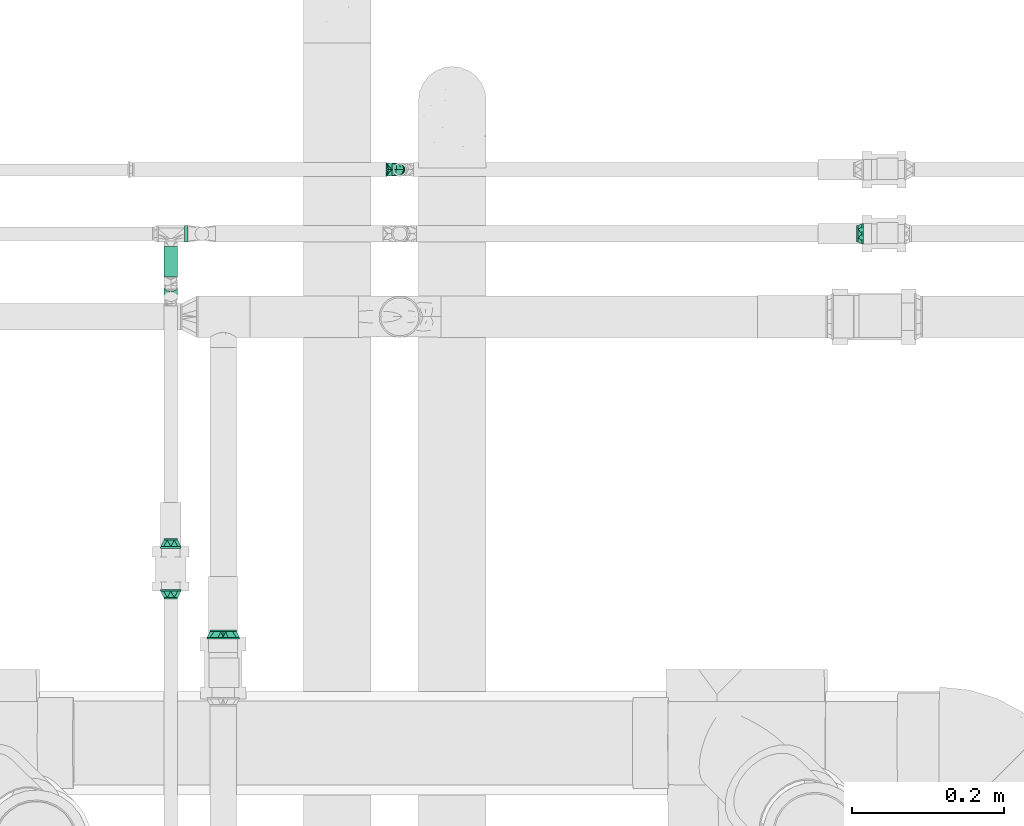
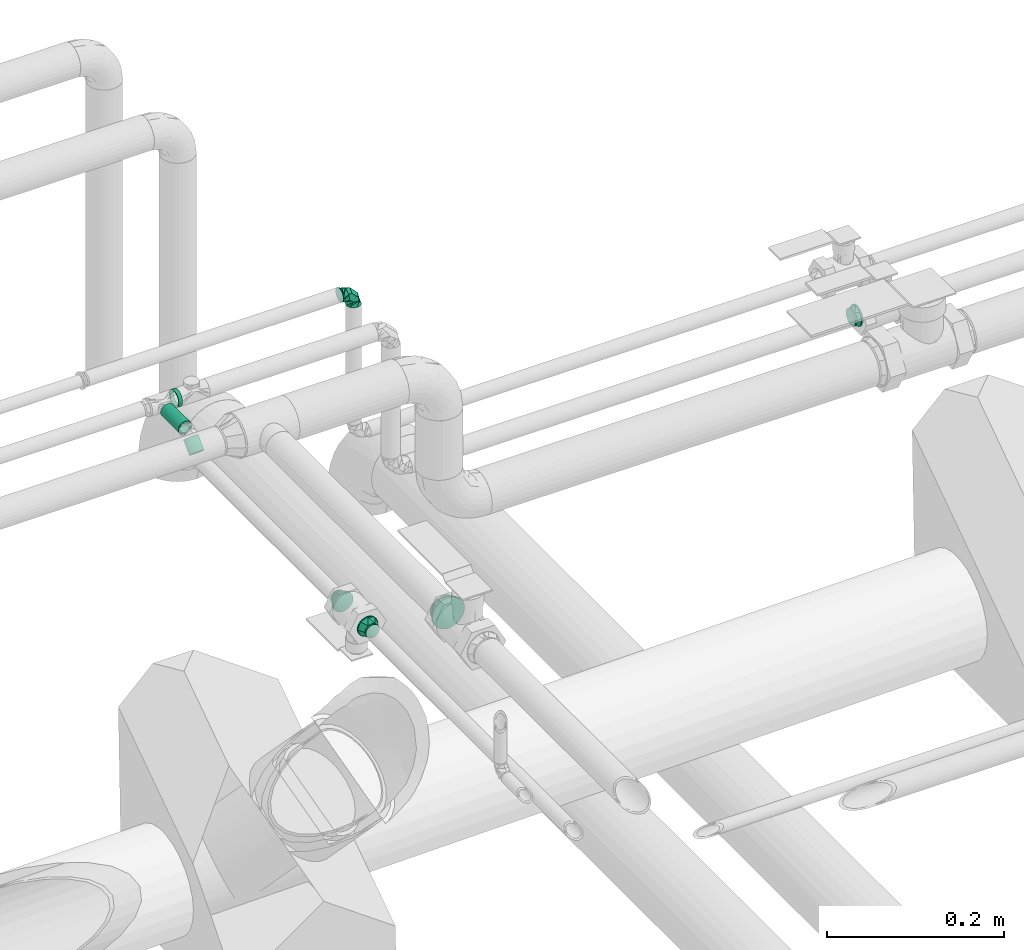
# One storey, part 94 of 156: 5 flow fittings, 3 flow segments.
"""IFC2X3 building model written with IfcOpenShell, lengths in millimetres."""

from ifc_helpers import new_model, entity, si_unit, converted_unit, derived_unit, direction, frame, origin_with_axes, origin_2d_with_axis, place, context, subcontext, project, spatial, hollow_circle, extrude, open_shell, surface_model, source, transform, mapped, type_object, element, save


model = new_model("IFC2X3")

# Units and contexts
model_context = context("Model", 3, precision=0.01, world=frame((0.0, 4.29681676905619e-09, 0.0)), true_north=direction((4.01073788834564e-13, 1.0)))
plan_context = context("Plan", 3, precision=0.01, world=frame((0.0, 4.29681676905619e-09, 0.0)), true_north=direction((4.01073788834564e-13, 1.0)))
body_context = subcontext(model_context, "Body", "Model", "MODEL_VIEW")
ifc_project = project(units=[converted_unit("PLANEANGLEUNIT", "DEGREE", entity("IfcPositiveLengthMeasure", 0.0174532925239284), si_unit("PLANEANGLEUNIT", "RADIAN"), dimensions=[0, 0, 0, 0, 0, 0, 0]), si_unit("AREAUNIT", "SQUARE_METRE"), si_unit("LENGTHUNIT", "METRE", prefix="MILLI"), si_unit("MASSUNIT", "GRAM", prefix="KILO"), si_unit("POWERUNIT", "WATT"), si_unit("PRESSUREUNIT", "PASCAL", prefix="KILO"), si_unit("FORCEUNIT", "NEWTON", prefix="KILO"), si_unit("ELECTRICVOLTAGEUNIT", "VOLT"), si_unit("ELECTRICCURRENTUNIT", "AMPERE"), si_unit("THERMODYNAMICTEMPERATUREUNIT", "DEGREE_CELSIUS"), si_unit("TIMEUNIT", "SECOND"), si_unit("VOLUMEUNIT", "CUBIC_METRE"), derived_unit("LINEARVELOCITYUNIT", [(si_unit("LENGTHUNIT", "METRE"), 1), (si_unit("TIMEUNIT", "SECOND"), -1)]), derived_unit("VOLUMETRICFLOWRATEUNIT", [(si_unit("VOLUMEUNIT", "CUBIC_METRE"), 1), (si_unit("TIMEUNIT", "SECOND"), -1)]), derived_unit("THERMALTRANSMITTANCEUNIT", [(si_unit("POWERUNIT", "WATT"), 1), (si_unit("THERMODYNAMICTEMPERATUREUNIT", "KELVIN"), -1), (si_unit("AREAUNIT", "SQUARE_METRE"), -1)]), derived_unit("SOUNDPRESSUREUNIT", [(si_unit("PRESSUREUNIT", "PASCAL"), 1)])], contexts=[model_context, plan_context])

# Site, building, storey
site_placement = place(None, frame((0.0, -4.29681676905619e-09, 0.0), z_axis=(0.0, 0.0, 1.0), x_axis=(1.0, 0.0, 0.0)))
site = spatial("IfcSite", under=ifc_project, at=site_placement, CompositionType="ELEMENT")
building_placement = place(site_placement, frame((0.0, 4.29681676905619e-09, 0.0), z_axis=(0.0, 0.0, 1.0), x_axis=(1.0, 0.0, 0.0)))
building = spatial("IfcBuilding", under=site, at=building_placement, Name="mc-building", CompositionType="ELEMENT")
storey_placement = place(building_placement, frame((0.0, 0.0, 205200.0), z_axis=(0.0, 0.0, 1.0), x_axis=(1.0, 0.0, 0.0)))
storey = spatial("IfcBuildingStorey", under=building, at=storey_placement, Name="Nivå D + 1,2 m", CompositionType="ELEMENT", Elevation=205200.0)

# Flow fittings
pipe_fitting_type_1 = type_object("IfcPipeFittingType", Name="magi_pipe_elbow_short_001", PredefinedType="BEND")
shared_shape_1 = source(origin_with_axes(), body_context, "Body", "SurfaceModel", [
    surface_model("IfcShellBasedSurfaceModel", [(-18.0, 4.5, -7.79423), (-18.0, 2.32937, -8.69333), (-18.0, 0.0, -9.0), (-18.0, -6.36396, -6.36396), (-18.0, 8.69333, -2.32937), (-18.0, 7.79423, -4.5), (-18.0, 6.36396, -6.36396), (-18.0, -4.5, -7.79423), (-18.0, -2.32937, -8.69333), (-18.0, -7.79423, -4.5), (-18.0, -8.69333, -2.32937), (-18.0, -9.0, 0.0), (-18.0, 8.69333, 2.32937), (-18.0, -8.69333, 2.32937), (-18.0, 7.79423, 4.5), (-18.0, 6.36396, 6.36396), (-18.0, 2.32937, 8.69333), (-18.0, 4.5, 7.79423), (-18.0, -7.79423, 4.5), (-18.0, -6.36396, 6.36396), (-18.0, -4.5, 7.79423), (-18.0, -2.32937, 8.69333), (-18.0, 0.0, 9.0), (-18.0, 9.0, 0.0), (0.0, 18.0, -9.0), (-2.32937, 18.0, -8.69333), (-4.5, 18.0, -7.79423), (6.36396, 18.0, -6.36396), (-7.79423, 18.0, -4.5), (-8.69333, 18.0, -2.32937), (-6.36396, 18.0, -6.36396), (8.69333, 18.0, 2.32937), (9.0, 18.0, 0.0), (2.32937, 18.0, -8.69333), (4.5, 18.0, -7.79423), (8.69333, 18.0, -2.32937), (7.79423, 18.0, -4.5), (-8.69333, 18.0, 2.32937), (-6.36396, 18.0, 6.36396), (-7.79423, 18.0, 4.5), (-4.5, 18.0, 7.79423), (-2.32937, 18.0, 8.69333), (7.79423, 18.0, 4.5), (6.36396, 18.0, 6.36396), (2.32937, 18.0, 8.69333), (4.5, 18.0, 7.79423), (0.0, 18.0, 9.0), (-9.0, 18.0, 0.0), (-16.09014, -8.48825, 0.0), (-10.51068, -2.97249, 7.92278), (-10.36056, -6.95302, 0.0), (-4.5, -5.38269, 0.0), (0.44134, -0.44134, 0.0), (2.91201, 2.02933, 0.0), (-2.70211, 1.18586, 7.65564), (-2.02933, -2.91201, 0.0), (-14.18028, -7.97651, 0.0), (-7.11648, 7.11648, 8.61373), (-4.93977, 9.63211, 8.64898), (2.97249, 10.51068, 7.92278), (2.01286, 5.84889, 7.1903), (5.38269, 4.5, 0.0), (-5.73616, -2.07922, 7.10204), (8.48825, 16.09014, 0.0), (7.97651, 14.18028, 0.0), (-9.63211, 4.93977, 8.64898), (-10.31802, 14.81802, 0.0), (-14.81802, 10.31802, 0.0), (-11.63604, 11.63604, 0.0), (6.95302, 10.36056, 0.0), (-10.51068, -2.97249, -7.92278), (-4.93977, 9.63211, -8.64898), (0.8585, 4.1248, -7.1903), (-2.68792, 2.14037, -8.03971), (2.97249, 10.51068, -7.92278), (-13.67048, 7.29638, -6.27272), (-8.50355, 2.18787, -8.98901), (-9.83427, 8.11209, -7.36254)], [open_shell([[[0, 1, 2]], [[0, 2, 3]], [[0, 4, 5]], [[6, 0, 5]], [[4, 0, 3]], [[7, 3, 8]], [[3, 2, 8]], [[9, 10, 3]], [[11, 3, 10]], [[3, 11, 4]], [[11, 12, 4]], [[12, 11, 13]], [[14, 12, 15]], [[16, 17, 15]], [[13, 15, 12]], [[15, 18, 16]], [[18, 19, 16]], [[15, 13, 18]], [[20, 21, 19]], [[22, 19, 21]], [[16, 19, 22]], [[23, 4, 12]], [[24, 25, 26]], [[27, 24, 26]], [[28, 29, 26]], [[28, 26, 30]], [[31, 32, 26]], [[33, 27, 34]], [[33, 24, 27]], [[27, 35, 36]], [[35, 27, 32]], [[26, 32, 27]], [[26, 29, 37]], [[31, 26, 37]], [[38, 37, 39]], [[38, 40, 41]], [[37, 38, 31]], [[41, 42, 38]], [[41, 43, 42]], [[42, 31, 38]], [[43, 44, 45]], [[44, 43, 46]], [[46, 43, 41]], [[37, 29, 47]], [[13, 48, 18]], [[49, 50, 51]], [[52, 53, 54]], [[54, 55, 52]], [[20, 19, 56]], [[18, 56, 19]], [[57, 54, 58]], [[20, 50, 21]], [[22, 21, 50]], [[59, 60, 61]], [[59, 58, 60]], [[55, 54, 62]], [[22, 50, 49]], [[22, 49, 16]], [[62, 49, 51]], [[62, 51, 55]], [[42, 63, 31]], [[49, 17, 16]], [[64, 63, 42]], [[12, 65, 23]], [[14, 15, 49]], [[54, 65, 62]], [[17, 49, 15]], [[57, 58, 66]], [[67, 57, 68]], [[53, 60, 54]], [[44, 46, 69]], [[69, 45, 44]], [[38, 59, 40]], [[41, 59, 46]], [[43, 45, 64]], [[54, 60, 58]], [[64, 45, 69]], [[61, 60, 53]], [[31, 63, 32]], [[59, 61, 69]], [[58, 47, 66]], [[20, 56, 50]], [[54, 57, 65]], [[49, 65, 14]], [[37, 47, 58]], [[64, 42, 43]], [[39, 37, 58]], [[14, 65, 12]], [[38, 39, 59]], [[13, 11, 48]], [[39, 58, 59]], [[48, 56, 18]], [[40, 59, 41]], [[59, 69, 46]], [[49, 62, 65]], [[57, 67, 65]], [[66, 68, 57]], [[67, 23, 65]], [[70, 50, 2]], [[71, 72, 73]], [[74, 71, 28]], [[70, 1, 0]], [[70, 51, 50]], [[35, 32, 63]], [[75, 6, 5]], [[75, 4, 23]], [[5, 4, 75]], [[51, 76, 55]], [[75, 23, 67]], [[70, 6, 75]], [[48, 11, 10]], [[7, 56, 3]], [[2, 50, 8]], [[51, 70, 76]], [[56, 7, 50]], [[7, 8, 50]], [[70, 2, 1]], [[66, 47, 71]], [[52, 72, 53]], [[6, 70, 0]], [[70, 75, 76]], [[73, 52, 55]], [[71, 68, 66]], [[61, 53, 72]], [[34, 64, 69]], [[29, 71, 47]], [[30, 74, 28]], [[56, 9, 3]], [[26, 25, 74]], [[63, 64, 36]], [[56, 48, 9]], [[26, 74, 30]], [[9, 48, 10]], [[24, 74, 25]], [[33, 69, 24]], [[28, 71, 29]], [[27, 64, 34]], [[69, 33, 34]], [[68, 71, 77]], [[74, 24, 69]], [[36, 35, 63]], [[61, 72, 74]], [[61, 74, 69]], [[67, 77, 75]], [[74, 72, 71]], [[36, 64, 27]], [[76, 77, 73]], [[75, 77, 76]], [[77, 71, 73]], [[55, 76, 73]], [[72, 52, 73]], [[77, 67, 68]]])]),
])
flow_fitting_1_placement = place(storey_placement, frame((326966.13637, 463477.7375, 4308.0), z_axis=(0.0, -1.0, 0.0), x_axis=(0.0, 0.0, 1.0)))
element("IfcFlowFitting", 1, at=flow_fitting_1_placement, inside=storey, type_object=pipe_fitting_type_1, Name="magi_pipe_elbow_short_001", context=body_context, shape_type="MappedRepresentation", body=[
    mapped(shared_shape_1, transform((0.0, 0.0, 0.0), scale=1.0)),
])
pipe_fitting_type_2 = type_object("IfcPipeFittingType", Name="magi_pipe_fe_reducer_centric_short_001", PredefinedType="TRANSITION")
shared_shape_2 = source(origin_with_axes(), body_context, "Body", "SurfaceModel", [
    surface_model("IfcShellBasedSurfaceModel", [(-2.0, -10.6, -18.35974), (-2.0, 0.0, -21.2), (-2.0, -5.48696, -20.47763), (0.0, 17.15116, 12.46105), (0.0, 6.55116, -20.1624), (0.0, -21.2, 0.0), (0.0, -6.55116, -20.1624), (0.0, -17.15116, -12.46105), (-2.0, 0.0, 21.2), (-2.0, 5.48696, 20.47763), (-2.0, 10.6, 18.35974), (-2.0, 14.99066, 14.99066), (-2.0, 18.35974, 10.6), (-2.0, 20.47763, 5.48696), (-2.0, -5.48696, 20.47763), (-2.0, -14.99066, 14.99066), (-2.0, -10.6, 18.35974), (-2.0, -18.35974, 10.6), (-2.0, -21.2, 0.0), (-2.0, -20.47763, 5.48696), (-2.0, 14.99066, -14.99066), (-2.0, 20.47763, -5.48696), (-2.0, 18.35974, -10.6), (-2.0, 10.6, -18.35974), (-2.0, 21.2, 0.0), (0.0, 10.6, -18.35974), (0.0, 0.0, -21.2), (0.0, 5.48696, -20.47763), (0.0, 20.47763, -5.48696), (0.0, 14.99066, -14.99066), (0.0, 18.35974, -10.6), (0.0, -10.6, -18.35974), (0.0, -5.48696, -20.47763), (0.0, -18.35974, -10.6), (0.0, -20.47763, -5.48696), (0.0, 20.47763, 5.48696), (0.0, 18.35974, 10.6), (0.0, 14.99066, 14.99066), (0.0, 10.6, 18.35974), (0.0, 5.48696, 20.47763), (0.0, 0.0, 21.2), (0.0, -18.35974, 10.6), (0.0, -20.47763, 5.48696), (0.0, -14.99066, 14.99066), (0.0, -5.48696, 20.47763), (0.0, -10.6, 18.35974), (-2.0, -20.47763, -5.48696), (-2.0, -18.35974, -10.6), (-2.0, -14.99066, -14.99066), (0.0, -14.99066, -14.99066), (-2.0, 5.48696, -20.47763), (0.0, 21.2, 0.0), (0.0, 6.55116, 20.1624), (0.0, -17.15116, 12.46105), (0.0, -6.55116, 20.1624), (0.0, 17.15116, -12.46105), (9.4, 4.52933, -16.9037), (9.4, 8.75, -15.15544), (9.4, 12.37437, -12.37437), (9.4, 16.9037, -4.52933), (9.4, -8.75, -15.15544), (9.4, 15.15544, -8.75), (9.4, -16.9037, 4.52933), (9.4, -15.15544, -8.75), (9.4, 0.0, -17.5), (9.4, -4.52933, -16.9037), (9.4, -12.37437, -12.37437), (9.4, -17.5, 0.0), (9.4, -16.9037, -4.52933), (9.4, 0.0, 17.5), (9.4, 17.5, 0.0), (9.4, 16.9037, 4.52933), (9.4, 15.15544, 8.75), (9.4, 12.37437, 12.37437), (9.4, 4.52933, 16.9037), (9.4, 8.75, 15.15544), (9.4, -12.37437, 12.37437), (9.4, -15.15544, 8.75), (9.4, -8.75, 15.15544), (9.4, -4.52933, 16.9037), (7.4, 0.0, 17.5), (7.4, 4.52933, 16.9037), (7.4, 8.75, 15.15544), (7.4, -15.15544, -8.75), (7.4, 12.37437, 12.37437), (7.4, 15.15544, 8.75), (7.4, 16.9037, 4.52933), (7.4, -16.9037, 4.52933), (7.4, -8.75, 15.15544), (7.4, -12.37437, 12.37437), (7.4, -4.52933, 16.9037), (7.4, -15.15544, 8.75), (7.4, -17.5, 0.0), (7.4, 16.9037, -4.52933), (7.4, 12.37437, -12.37437), (7.4, 15.15544, -8.75), (7.4, 8.75, -15.15544), (7.4, 4.52933, -16.9037), (7.4, 0.0, -17.5), (7.4, -8.75, -15.15544), (7.4, -12.37437, -12.37437), (7.4, -16.9037, -4.52933), (7.4, -4.52933, -16.9037), (7.4, 17.5, 0.0), (7.4, -13.65578, -9.28078), (0.0, 11.85116, -16.31172), (0.0, 14.50116, -14.38638), (7.4, -14.93718, -6.18718), (0.0, -19.17558, -6.23052), (0.0, -18.16337, -9.34579), (7.4, 6.18718, -14.93718), (7.4, 14.93718, -6.18718), (0.0, 19.17558, -6.23052), (0.0, 0.0, -20.1624), (7.4, 3.09359, -16.21859), (7.4, 13.65578, -9.28078), (7.4, -3.09359, -16.21859), (7.4, 16.21859, -3.09359), (7.4, -16.21859, -3.09359), (0.0, -11.85116, -16.31172), (7.4, -6.18718, -14.93718), (7.4, -9.28078, -13.65578), (7.4, 9.28078, -13.65578), (7.4, 13.65578, 9.28078), (0.0, -11.85116, 16.31172), (0.0, -14.50116, 14.38638), (7.4, 14.93718, 6.18718), (0.0, 19.17558, 6.23052), (0.0, 18.16337, 9.34579), (7.4, -6.18718, 14.93718), (7.4, -14.93718, 6.18718), (0.0, -19.17558, 6.23052), (0.0, 0.0, 20.1624), (7.4, -3.09359, 16.21859), (7.4, -13.65578, 9.28078), (7.4, 3.09359, 16.21859), (7.4, -16.21859, 3.09359), (7.4, 16.21859, 3.09359), (0.0, 11.85116, 16.31172), (7.4, 6.18718, 14.93718), (7.4, 9.28078, 13.65578), (7.4, -9.28078, 13.65578)], [open_shell([[[0, 1, 2]], [[3, 4, 5]], [[5, 4, 6]], [[5, 6, 7]], [[8, 9, 10]], [[11, 12, 13]], [[14, 15, 16]], [[17, 18, 19]], [[20, 21, 22]], [[23, 21, 20]], [[21, 13, 24]], [[25, 26, 27]], [[28, 25, 29]], [[28, 29, 30]], [[26, 31, 32]], [[26, 25, 31]], [[33, 5, 34]], [[35, 36, 37]], [[38, 39, 40]], [[5, 41, 42]], [[43, 44, 45]], [[40, 44, 43]], [[46, 34, 18]], [[47, 33, 46]], [[31, 48, 0]], [[47, 48, 49]], [[32, 0, 2]], [[46, 33, 34]], [[34, 5, 18]], [[32, 31, 0]], [[49, 48, 31]], [[49, 33, 47]], [[26, 32, 2]], [[2, 1, 26]], [[50, 27, 1]], [[23, 25, 50]], [[30, 20, 22]], [[23, 20, 29]], [[28, 22, 21]], [[23, 29, 25]], [[25, 27, 50]], [[51, 28, 21]], [[30, 22, 28]], [[30, 29, 20]], [[24, 51, 21]], [[1, 27, 26]], [[13, 35, 24]], [[12, 36, 13]], [[38, 11, 10]], [[12, 11, 37]], [[39, 10, 9]], [[13, 36, 35]], [[35, 51, 24]], [[39, 38, 10]], [[37, 11, 38]], [[37, 36, 12]], [[40, 39, 9]], [[9, 8, 40]], [[14, 44, 8]], [[16, 45, 14]], [[41, 15, 17]], [[16, 15, 43]], [[42, 17, 19]], [[16, 43, 45]], [[45, 44, 14]], [[5, 42, 19]], [[41, 17, 42]], [[41, 43, 15]], [[18, 5, 19]], [[8, 44, 40]], [[52, 53, 54]], [[4, 3, 55]], [[55, 3, 51]], [[56, 57, 58]], [[56, 58, 59]], [[56, 59, 60]], [[59, 58, 61]], [[62, 63, 59]], [[64, 60, 65]], [[64, 56, 60]], [[60, 63, 66]], [[59, 63, 60]], [[63, 67, 68]], [[69, 59, 70]], [[71, 72, 73]], [[71, 73, 69]], [[74, 69, 73]], [[74, 73, 75]], [[69, 62, 59]], [[62, 76, 77]], [[67, 63, 62]], [[62, 78, 76]], [[78, 62, 79]], [[69, 79, 62]], [[70, 71, 69]], [[80, 81, 82]], [[83, 80, 82]], [[84, 85, 86]], [[84, 86, 82]], [[87, 80, 83]], [[88, 87, 89]], [[87, 88, 90]], [[89, 87, 91]], [[90, 80, 87]], [[87, 83, 92]], [[86, 83, 82]], [[86, 93, 83]], [[94, 93, 95]], [[94, 96, 97]], [[94, 97, 93]], [[98, 93, 97]], [[83, 99, 100]], [[101, 92, 83]], [[99, 98, 102]], [[99, 83, 93]], [[98, 99, 93]], [[93, 86, 103]], [[101, 68, 92]], [[83, 63, 101]], [[60, 100, 99]], [[83, 100, 66]], [[65, 99, 102]], [[101, 63, 68]], [[68, 67, 92]], [[65, 60, 99]], [[66, 100, 60]], [[66, 63, 83]], [[64, 65, 102]], [[102, 98, 64]], [[97, 56, 98]], [[96, 57, 97]], [[61, 94, 95]], [[96, 94, 58]], [[59, 95, 93]], [[96, 58, 57]], [[57, 56, 97]], [[70, 59, 93]], [[61, 95, 59]], [[61, 58, 94]], [[103, 70, 93]], [[98, 56, 64]], [[86, 71, 103]], [[85, 72, 86]], [[75, 84, 82]], [[85, 84, 73]], [[74, 82, 81]], [[86, 72, 71]], [[71, 70, 103]], [[74, 75, 82]], [[73, 84, 75]], [[73, 72, 85]], [[69, 74, 81]], [[81, 80, 69]], [[90, 79, 80]], [[88, 78, 90]], [[77, 89, 91]], [[88, 89, 76]], [[62, 91, 87]], [[88, 76, 78]], [[78, 79, 90]], [[67, 62, 87]], [[77, 91, 62]], [[77, 76, 89]], [[92, 67, 87]], [[80, 79, 69]], [[14, 8, 10]], [[10, 11, 14]], [[11, 21, 15]], [[14, 11, 15]], [[18, 17, 15]], [[15, 23, 18]], [[21, 11, 13]], [[15, 21, 23]], [[18, 23, 46]], [[46, 23, 50]], [[47, 0, 48]], [[1, 47, 46]], [[1, 0, 47]], [[46, 50, 1]], [[31, 25, 28]], [[31, 28, 37]], [[31, 33, 49]], [[31, 5, 33]], [[28, 51, 35]], [[31, 37, 5]], [[5, 37, 38]], [[43, 38, 40]], [[41, 5, 43]], [[43, 5, 38]], [[37, 28, 35]], [[80, 89, 84]], [[103, 84, 89]], [[89, 100, 103]], [[100, 98, 103]], [[94, 103, 98]], [[89, 92, 100]], [[52, 3, 5]], [[53, 52, 5]], [[7, 100, 104]], [[94, 105, 106]], [[107, 108, 109]], [[105, 110, 4]], [[94, 106, 55]], [[111, 55, 112]], [[113, 114, 98]], [[55, 111, 115]], [[113, 116, 6]], [[51, 117, 112]], [[5, 118, 92]], [[100, 7, 119]], [[119, 120, 121]], [[5, 108, 118]], [[116, 113, 98]], [[4, 110, 114]], [[116, 120, 6]], [[4, 114, 113]], [[122, 110, 105]], [[117, 51, 103]], [[107, 118, 108]], [[7, 104, 109]], [[104, 107, 109]], [[94, 55, 115]], [[120, 119, 6]], [[121, 100, 119]], [[117, 111, 112]], [[105, 94, 122]], [[3, 84, 123]], [[89, 124, 125]], [[126, 127, 128]], [[124, 129, 54]], [[89, 125, 53]], [[130, 53, 131]], [[132, 133, 80]], [[53, 130, 134]], [[132, 135, 52]], [[5, 136, 131]], [[51, 137, 103]], [[84, 3, 138]], [[138, 139, 140]], [[51, 127, 137]], [[135, 132, 80]], [[54, 129, 133]], [[135, 139, 52]], [[54, 133, 132]], [[141, 129, 124]], [[136, 5, 92]], [[126, 137, 127]], [[3, 123, 128]], [[123, 126, 128]], [[89, 53, 134]], [[139, 138, 52]], [[140, 84, 138]], [[136, 130, 131]], [[124, 89, 141]]])]),
])
flow_fitting_2_placement = place(storey_placement, frame((326734.3046, 462863.4875, 4318.0), z_axis=(0.0, 0.0, 1.0), x_axis=(0.0, 1.0, 0.0)))
element("IfcFlowFitting", 2, at=flow_fitting_2_placement, inside=storey, type_object=pipe_fitting_type_2, Name="magi_pipe_fe_reducer_centric_short_001", context=body_context, shape_type="MappedRepresentation", body=[
    mapped(shared_shape_2, transform((0.0, 0.0, 0.0), scale=1.0)),
])
shared_shape_3 = source(origin_with_axes(), body_context, "Body", "SurfaceModel", [
    surface_model("IfcShellBasedSurfaceModel", [(-2.0, 9.47523, 9.47523), (-2.0, 11.60474, 6.7), (-2.0, 12.94341, 3.46818), (-2.0, -3.46818, 12.94341), (-2.0, -9.47523, 9.47523), (-2.0, -6.7, 11.60474), (-2.0, -12.94341, 3.46818), (-2.0, -11.60474, 6.7), (-2.0, -12.94341, -3.46818), (-2.0, -9.47523, -9.47523), (-2.0, -11.60474, -6.7), (0.0, 11.60474, -6.7), (0.0, 6.7, -11.60474), (0.0, 9.47523, -9.47523), (0.0, -9.47523, -9.47523), (0.0, -12.94341, -3.46818), (0.0, -11.60474, -6.7), (0.0, 12.94341, 3.46818), (0.0, 11.60474, 6.7), (0.0, 9.47523, 9.47523), (0.0, 0.0, 13.4), (0.0, -9.47523, 9.47523), (0.0, -3.46818, 12.94341), (0.0, -6.7, 11.60474), (-2.0, -13.4, 0.0), (0.0, -6.7, -11.60474), (-2.0, -6.7, -11.60474), (0.0, -3.46818, -12.94341), (-2.0, -3.46818, -12.94341), (0.0, -13.4, 0.0), (0.0, 0.0, -13.4), (-2.0, 0.0, -13.4), (-2.0, 3.46818, -12.94341), (0.0, 3.46818, -12.94341), (-2.0, 6.7, -11.60474), (-2.0, 9.47523, -9.47523), (-2.0, 11.60474, -6.7), (0.0, 12.94341, -3.46818), (-2.0, 12.94341, -3.46818), (0.0, 13.4, 0.0), (-2.0, 13.4, 0.0), (0.0, 6.7, 11.60474), (-2.0, 6.7, 11.60474), (0.0, 3.46818, 12.94341), (-2.0, 3.46818, 12.94341), (-2.0, 0.0, 13.4), (0.0, -11.60474, 6.7), (0.0, -12.94341, 3.46818), (6.8, 2.84701, -10.62518), (6.8, 5.5, -9.52628), (6.8, 7.77817, -7.77817), (6.8, 9.52628, -5.5), (6.8, 10.62518, -2.84701), (6.8, -7.77817, -7.77817), (6.8, 2.84701, 10.62518), (6.8, -2.84701, -10.62518), (6.8, 0.0, -11.0), (6.8, -5.5, -9.52628), (6.8, -10.62518, -2.84701), (6.8, -9.52628, -5.5), (6.8, -11.0, 0.0), (6.8, 11.0, 0.0), (6.8, 10.62518, 2.84701), (6.8, 9.52628, 5.5), (6.8, 7.77817, 7.77817), (6.8, 0.0, 11.0), (6.8, 5.5, 9.52628), (6.8, -2.84701, 10.62518), (6.8, -10.62518, 2.84701), (6.8, -7.77817, 7.77817), (6.8, -9.52628, 5.5), (6.8, -5.5, 9.52628), (4.8, 2.84701, 10.62518), (4.8, -2.84701, 10.62518), (4.8, 0.0, 11.0), (4.8, 7.77817, 7.77817), (4.8, 5.5, 9.52628), (4.8, 9.52628, 5.5), (4.8, 10.62518, 2.84701), (4.8, -11.0, 0.0), (4.8, -7.77817, 7.77817), (4.8, -5.5, 9.52628), (4.8, -10.62518, 2.84701), (4.8, -9.52628, 5.5), (4.8, 10.62518, -2.84701), (4.8, 2.84701, -10.62518), (4.8, 7.77817, -7.77817), (4.8, 9.52628, -5.5), (4.8, 5.5, -9.52628), (4.8, -7.77817, -7.77817), (4.8, -10.62518, -2.84701), (4.8, -9.52628, -5.5), (4.8, -2.84701, -10.62518), (4.8, -5.5, -9.52628), (4.8, 0.0, -11.0), (4.8, 11.0, 0.0)], [open_shell([[[0, 1, 2]], [[3, 4, 5]], [[4, 6, 7]], [[8, 9, 10]], [[11, 12, 13]], [[14, 15, 16]], [[17, 18, 19]], [[17, 19, 20]], [[21, 22, 23]], [[8, 15, 24]], [[10, 16, 8]], [[25, 9, 26]], [[10, 9, 14]], [[27, 26, 28]], [[8, 16, 15]], [[15, 29, 24]], [[27, 25, 26]], [[14, 9, 25]], [[14, 16, 10]], [[30, 27, 28]], [[28, 31, 30]], [[32, 33, 31]], [[34, 12, 32]], [[11, 35, 36]], [[34, 35, 13]], [[37, 36, 38]], [[34, 13, 12]], [[12, 33, 32]], [[39, 37, 38]], [[11, 36, 37]], [[11, 13, 35]], [[40, 39, 38]], [[31, 33, 30]], [[2, 17, 40]], [[1, 18, 2]], [[41, 0, 42]], [[1, 0, 19]], [[43, 42, 44]], [[2, 18, 17]], [[17, 39, 40]], [[43, 41, 42]], [[19, 0, 41]], [[19, 18, 1]], [[20, 43, 44]], [[44, 45, 20]], [[3, 22, 45]], [[5, 23, 3]], [[46, 4, 7]], [[5, 4, 21]], [[47, 7, 6]], [[5, 21, 23]], [[23, 22, 3]], [[29, 47, 6]], [[46, 7, 47]], [[46, 21, 4]], [[24, 29, 6]], [[45, 22, 20]], [[0, 45, 44]], [[0, 44, 42]], [[0, 2, 45]], [[45, 2, 3]], [[4, 3, 9]], [[6, 4, 24]], [[4, 9, 24]], [[9, 3, 2]], [[2, 38, 9]], [[36, 9, 38]], [[36, 34, 9]], [[34, 36, 35]], [[34, 32, 28]], [[24, 9, 8]], [[9, 28, 26]], [[9, 34, 28]], [[31, 28, 32]], [[38, 2, 40]], [[12, 27, 33]], [[37, 14, 11]], [[11, 14, 12]], [[14, 37, 39]], [[27, 14, 25]], [[27, 30, 33]], [[27, 12, 14]], [[39, 15, 14]], [[39, 17, 15]], [[43, 20, 19]], [[43, 19, 41]], [[17, 20, 22]], [[29, 46, 47]], [[46, 29, 21]], [[29, 15, 21]], [[17, 22, 21]], [[21, 15, 17]], [[20, 19, 29]], [[29, 21, 20]], [[14, 29, 30]], [[19, 30, 29]], [[13, 30, 19]], [[19, 39, 13]], [[48, 49, 50]], [[48, 50, 51]], [[48, 52, 53]], [[52, 48, 51]], [[52, 54, 53]], [[48, 55, 56]], [[48, 57, 55]], [[53, 58, 59]], [[57, 48, 53]], [[53, 60, 58]], [[52, 61, 62]], [[62, 63, 64]], [[62, 64, 54]], [[65, 53, 54]], [[54, 64, 66]], [[67, 53, 65]], [[68, 69, 70]], [[69, 68, 60]], [[69, 67, 71]], [[60, 53, 69]], [[67, 69, 53]], [[54, 52, 62]], [[72, 73, 74]], [[75, 72, 76]], [[75, 77, 78]], [[75, 78, 72]], [[79, 72, 78]], [[73, 80, 81]], [[73, 72, 80]], [[80, 82, 83]], [[82, 80, 79]], [[72, 79, 80]], [[78, 84, 79]], [[79, 84, 85]], [[86, 84, 87]], [[86, 88, 85]], [[86, 85, 84]], [[85, 89, 79]], [[90, 89, 91]], [[79, 89, 90]], [[85, 92, 93]], [[93, 89, 85]], [[92, 85, 94]], [[84, 78, 95]], [[90, 58, 79]], [[91, 59, 90]], [[57, 89, 93]], [[91, 89, 53]], [[55, 93, 92]], [[90, 59, 58]], [[58, 60, 79]], [[55, 57, 93]], [[53, 89, 57]], [[53, 59, 91]], [[56, 55, 92]], [[92, 94, 56]], [[85, 48, 94]], [[88, 49, 85]], [[51, 86, 87]], [[88, 86, 50]], [[52, 87, 84]], [[88, 50, 49]], [[49, 48, 85]], [[61, 52, 84]], [[51, 87, 52]], [[51, 50, 86]], [[95, 61, 84]], [[94, 48, 56]], [[78, 62, 95]], [[77, 63, 78]], [[66, 75, 76]], [[77, 75, 64]], [[54, 76, 72]], [[78, 63, 62]], [[62, 61, 95]], [[54, 66, 76]], [[64, 75, 66]], [[64, 63, 77]], [[65, 54, 72]], [[72, 74, 65]], [[73, 67, 74]], [[81, 71, 73]], [[70, 80, 83]], [[81, 80, 69]], [[68, 83, 82]], [[81, 69, 71]], [[71, 67, 73]], [[60, 68, 82]], [[70, 83, 68]], [[70, 69, 80]], [[79, 60, 82]], [[74, 67, 65]], [[76, 81, 95]], [[95, 81, 93]], [[93, 88, 95]], [[93, 81, 79]], [[95, 88, 13]], [[13, 39, 95]], [[88, 30, 13]], [[93, 79, 14]], [[14, 30, 93]], [[29, 14, 79]], [[93, 30, 88]], [[79, 81, 21]], [[21, 29, 79]], [[81, 20, 21]], [[76, 95, 19]], [[19, 20, 76]], [[39, 19, 95]], [[76, 20, 81]]])]),
])
flow_fitting_3_placement = place(storey_placement, frame((327572.95, 463393.4875, 4112.0), z_axis=(0.0, 0.0, 1.0), x_axis=(-1.0, 0.0, 0.0)))
element("IfcFlowFitting", 3, at=flow_fitting_3_placement, inside=storey, type_object=pipe_fitting_type_2, Name="magi_pipe_fe_reducer_centric_short_001", context=body_context, shape_type="MappedRepresentation", body=[
    mapped(shared_shape_3, transform((0.0, 0.0, 0.0), scale=1.0)),
])
shared_shape_4 = source(origin_with_axes(), body_context, "Body", "SurfaceModel", [
    surface_model("IfcShellBasedSurfaceModel", [(-2.0, 9.47523, 9.47523), (-2.0, 11.60474, 6.7), (-2.0, 12.94341, 3.46818), (-2.0, -3.46818, 12.94341), (-2.0, -9.47523, 9.47523), (-2.0, -6.7, 11.60474), (-2.0, -12.94341, 3.46818), (-2.0, -11.60474, 6.7), (-2.0, -12.94341, -3.46818), (-2.0, -9.47523, -9.47523), (-2.0, -11.60474, -6.7), (0.0, 11.60474, -6.7), (0.0, 6.7, -11.60474), (0.0, 9.47523, -9.47523), (0.0, -9.47523, -9.47523), (0.0, -12.94341, -3.46818), (0.0, -11.60474, -6.7), (0.0, 12.94341, 3.46818), (0.0, 11.60474, 6.7), (0.0, 9.47523, 9.47523), (0.0, 0.0, 13.4), (0.0, -9.47523, 9.47523), (0.0, -3.46818, 12.94341), (0.0, -6.7, 11.60474), (-2.0, -13.4, 0.0), (0.0, -6.7, -11.60474), (-2.0, -6.7, -11.60474), (0.0, -3.46818, -12.94341), (-2.0, -3.46818, -12.94341), (0.0, -13.4, 0.0), (0.0, 0.0, -13.4), (-2.0, 0.0, -13.4), (-2.0, 3.46818, -12.94341), (0.0, 3.46818, -12.94341), (-2.0, 6.7, -11.60474), (-2.0, 9.47523, -9.47523), (-2.0, 11.60474, -6.7), (0.0, 12.94341, -3.46818), (-2.0, 12.94341, -3.46818), (0.0, 13.4, 0.0), (-2.0, 13.4, 0.0), (0.0, 6.7, 11.60474), (-2.0, 6.7, 11.60474), (0.0, 3.46818, 12.94341), (-2.0, 3.46818, 12.94341), (-2.0, 0.0, 13.4), (0.0, -11.60474, 6.7), (0.0, -12.94341, 3.46818), (10.8, 4.5, -7.79423), (10.8, -6.36396, -6.36396), (10.8, 2.32937, -8.69333), (10.8, 8.69333, -2.32937), (10.8, 6.36396, -6.36396), (10.8, 7.79423, -4.5), (10.8, 7.79423, 4.5), (10.8, -8.69333, -2.32937), (10.8, 0.0, -9.0), (10.8, -4.5, -7.79423), (10.8, -2.32937, -8.69333), (10.8, -7.79423, -4.5), (10.8, 9.0, 0.0), (10.8, 8.69333, 2.32937), (10.8, -9.0, 0.0), (10.8, 4.5, 7.79423), (10.8, 6.36396, 6.36396), (10.8, 2.32937, 8.69333), (10.8, 0.0, 9.0), (10.8, -2.32937, 8.69333), (10.8, -8.69333, 2.32937), (10.8, -6.36396, 6.36396), (10.8, -7.79423, 4.5), (10.8, -4.5, 7.79423), (8.8, 0.0, 9.0), (8.8, 2.32937, 8.69333), (8.8, 4.5, 7.79423), (8.8, 7.79423, 4.5), (8.8, -9.0, 0.0), (8.8, 8.69333, -2.32937), (8.8, 6.36396, 6.36396), (8.8, 9.0, 0.0), (8.8, -2.32937, 8.69333), (8.8, -6.36396, 6.36396), (8.8, -4.5, 7.79423), (8.8, -8.69333, 2.32937), (8.8, -7.79423, 4.5), (8.8, 8.69333, 2.32937), (8.8, 4.5, -7.79423), (8.8, 6.36396, -6.36396), (8.8, 7.79423, -4.5), (8.8, 2.32937, -8.69333), (8.8, -4.5, -7.79423), (8.8, -8.69333, -2.32937), (8.8, -6.36396, -6.36396), (8.8, -7.79423, -4.5), (8.8, 0.0, -9.0), (8.8, -2.32937, -8.69333)], [open_shell([[[0, 1, 2]], [[3, 4, 5]], [[4, 6, 7]], [[8, 9, 10]], [[11, 12, 13]], [[14, 15, 16]], [[17, 18, 19]], [[17, 19, 20]], [[21, 22, 23]], [[8, 15, 24]], [[10, 16, 8]], [[25, 9, 26]], [[10, 9, 14]], [[27, 26, 28]], [[8, 16, 15]], [[15, 29, 24]], [[27, 25, 26]], [[14, 9, 25]], [[14, 16, 10]], [[30, 27, 28]], [[28, 31, 30]], [[32, 33, 31]], [[34, 12, 32]], [[11, 35, 36]], [[34, 35, 13]], [[37, 36, 38]], [[34, 13, 12]], [[12, 33, 32]], [[39, 37, 38]], [[11, 36, 37]], [[11, 13, 35]], [[40, 39, 38]], [[31, 33, 30]], [[2, 17, 40]], [[1, 18, 2]], [[41, 0, 42]], [[1, 0, 19]], [[43, 42, 44]], [[2, 18, 17]], [[17, 39, 40]], [[43, 41, 42]], [[19, 0, 41]], [[19, 18, 1]], [[20, 43, 44]], [[44, 45, 20]], [[3, 22, 45]], [[5, 23, 3]], [[46, 4, 7]], [[5, 4, 21]], [[47, 7, 6]], [[5, 21, 23]], [[23, 22, 3]], [[29, 47, 6]], [[46, 7, 47]], [[46, 21, 4]], [[24, 29, 6]], [[45, 22, 20]], [[48, 49, 50]], [[51, 48, 52]], [[49, 48, 51]], [[51, 52, 53]], [[54, 55, 51]], [[56, 57, 58]], [[56, 50, 57]], [[49, 55, 59]], [[57, 50, 49]], [[51, 55, 49]], [[51, 60, 61]], [[62, 55, 54]], [[63, 54, 64]], [[63, 65, 66]], [[63, 66, 54]], [[67, 54, 66]], [[68, 69, 70]], [[69, 68, 62]], [[69, 67, 71]], [[69, 62, 54]], [[54, 67, 69]], [[54, 51, 61]], [[72, 73, 74]], [[72, 74, 75]], [[76, 72, 77]], [[75, 74, 78]], [[75, 79, 72]], [[80, 81, 82]], [[80, 72, 81]], [[81, 83, 84]], [[83, 81, 76]], [[72, 76, 81]], [[75, 85, 79]], [[77, 86, 76]], [[87, 77, 88]], [[89, 76, 86]], [[86, 77, 87]], [[89, 90, 76]], [[91, 92, 93]], [[76, 92, 91]], [[90, 94, 95]], [[92, 76, 90]], [[94, 90, 89]], [[77, 72, 79]], [[91, 55, 76]], [[93, 59, 91]], [[57, 92, 90]], [[93, 92, 49]], [[58, 90, 95]], [[91, 59, 55]], [[55, 62, 76]], [[58, 57, 90]], [[49, 92, 57]], [[49, 59, 93]], [[56, 58, 95]], [[95, 94, 56]], [[89, 50, 94]], [[86, 48, 89]], [[53, 87, 88]], [[86, 87, 52]], [[51, 88, 77]], [[86, 52, 48]], [[48, 50, 89]], [[60, 51, 77]], [[53, 88, 51]], [[53, 52, 87]], [[79, 60, 77]], [[94, 50, 56]], [[85, 61, 79]], [[75, 54, 85]], [[63, 78, 74]], [[75, 78, 64]], [[65, 74, 73]], [[85, 54, 61]], [[61, 60, 79]], [[65, 63, 74]], [[64, 78, 63]], [[64, 54, 75]], [[66, 65, 73]], [[73, 72, 66]], [[80, 67, 72]], [[82, 71, 80]], [[70, 81, 84]], [[82, 81, 69]], [[68, 84, 83]], [[82, 69, 71]], [[71, 67, 80]], [[62, 68, 83]], [[70, 84, 68]], [[70, 69, 81]], [[76, 62, 83]], [[72, 67, 66]], [[0, 45, 44]], [[0, 44, 42]], [[0, 2, 45]], [[45, 2, 3]], [[4, 3, 9]], [[6, 4, 24]], [[4, 9, 24]], [[9, 3, 2]], [[2, 38, 9]], [[36, 9, 38]], [[36, 34, 9]], [[34, 36, 35]], [[34, 32, 28]], [[24, 9, 8]], [[9, 28, 26]], [[9, 34, 28]], [[31, 28, 32]], [[38, 2, 40]], [[12, 27, 33]], [[37, 14, 11]], [[11, 14, 12]], [[14, 37, 39]], [[27, 14, 25]], [[27, 30, 33]], [[27, 12, 14]], [[39, 15, 14]], [[39, 17, 15]], [[43, 20, 19]], [[43, 19, 41]], [[17, 20, 22]], [[29, 46, 47]], [[46, 29, 21]], [[29, 15, 21]], [[17, 22, 21]], [[21, 15, 17]], [[74, 82, 79]], [[79, 82, 90]], [[90, 86, 79]], [[90, 82, 76]], [[20, 19, 29]], [[29, 21, 20]], [[19, 13, 29]], [[30, 29, 13]], [[14, 29, 30]], [[13, 19, 39]], [[79, 86, 13]], [[13, 39, 79]], [[86, 30, 13]], [[90, 76, 14]], [[90, 14, 30]], [[14, 76, 29]], [[90, 30, 86]], [[76, 82, 21]], [[21, 29, 76]], [[82, 20, 21]], [[74, 79, 19]], [[74, 19, 20]], [[19, 79, 39]], [[74, 20, 82]]])]),
])
for number, where, z_axis, x_axis, name in (
    (4, (326665.49724, 462924.5125, 4285.29988999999), (0.0, 0.0, 1.0), (0.0, -1.0, 0.0), "magi_pipe_fe_reducer_centric_short_001"),
    (5, (326665.49724, 462982.5125, 4285.29988999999), (0.0, 0.0, 1.0), (0.0, 1.0, 0.0), "magi_pipe_fe_reducer_centric_short_001"),
):
    element("IfcFlowFitting", number, at=place(storey_placement, frame(where, z_axis=z_axis, x_axis=x_axis)), inside=storey, type_object=pipe_fitting_type_2, Name=name, context=body_context, shape_type="MappedRepresentation", body=[
        mapped(shared_shape_4, transform((0.0, 0.0, 0.0), scale=1.0)),
    ])

# Flow segments
pipe_segment_type = type_object("IfcPipeSegmentType", Name="Kobberrør", PredefinedType="RIGIDSEGMENT")
shared_shape_5 = source(origin_with_axes(), body_context, "Body", "SweptSolid", [
    extrude(hollow_circle(Radius=11.0, WallThickness=2.0, at=origin_2d_with_axis()), frame((0.0, 0.0, 0.0), z_axis=(1.0, 0.0, 0.0), x_axis=(0.0, 1.0, 0.0)), (0.0, 0.0, 1.0), 4.9),
])
flow_segment_1_placement = place(storey_placement, frame((326683.49724, 463393.4875, 4309.0), z_axis=(0.0, 0.0, 1.0), x_axis=(1.0, 0.0, 0.0)))
element("IfcFlowSegment", 6, at=flow_segment_1_placement, inside=storey, type_object=pipe_segment_type, Name="Kobberrør", context=body_context, shape_type="MappedRepresentation", body=[
    mapped(shared_shape_5, transform((0.0, 0.0, 0.0), scale=1.0)),
])
shared_shape_6 = source(origin_with_axes(), body_context, "Body", "SweptSolid", [
    extrude(hollow_circle(Radius=9.0, WallThickness=2.0, at=origin_2d_with_axis()), frame((0.0, 0.0, 0.0), z_axis=(1.0, 0.0, 0.0), x_axis=(0.0, 1.0, 0.0)), (0.0, 0.0, 1.0), 40.0),
])
flow_segment_2_placement = place(storey_placement, frame((326665.49724, 463376.9875, 4309.0), z_axis=(0.0, 0.0, 1.0), x_axis=(0.0, -1.0, 0.0)))
element("IfcFlowSegment", 7, at=flow_segment_2_placement, inside=storey, type_object=pipe_segment_type, Name="Kobberrør", context=body_context, shape_type="MappedRepresentation", body=[
    mapped(shared_shape_6, transform((0.0, 0.0, 0.0), scale=1.0)),
])
shared_shape_7 = source(origin_with_axes(), body_context, "Body", "SweptSolid", [
    extrude(hollow_circle(Radius=9.0, WallThickness=2.0, at=origin_2d_with_axis()), frame((0.0, 0.0, 0.0), z_axis=(1.0, 0.0, 0.0), x_axis=(0.0, 1.0, 0.0)), (0.0, 0.0, 1.0), 18.7),
])
flow_segment_3_placement = place(storey_placement, frame((326665.49724, 463324.21542, 4303.72792), z_axis=(0.0, -0.707106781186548, 0.707106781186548), x_axis=(0.0, -0.707106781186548, -0.707106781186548)))
element("IfcFlowSegment", 8, at=flow_segment_3_placement, inside=storey, type_object=pipe_segment_type, Name="Kobberrør", context=body_context, shape_type="MappedRepresentation", body=[
    mapped(shared_shape_7, transform((0.0, 0.0, 0.0), scale=1.0)),
])

save(model, "model.ifc")
